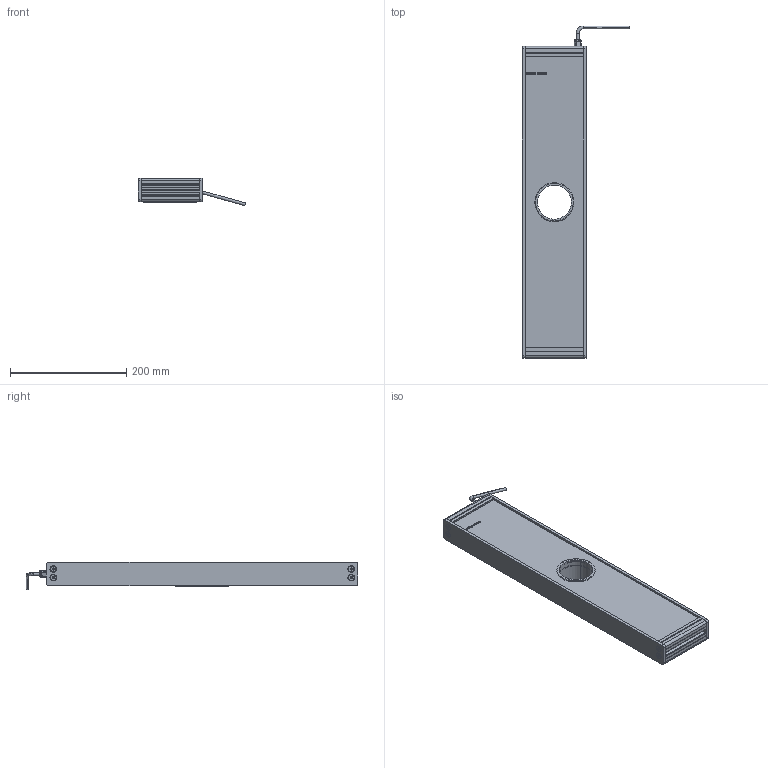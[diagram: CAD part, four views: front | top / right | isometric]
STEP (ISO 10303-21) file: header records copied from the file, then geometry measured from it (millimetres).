
FILE_DESCRIPTION (( 'STEP AP214' ), '1' );
FILE_NAME ('EFFI-FD-100T-500-M12 Ø58.5.STEP', '2021-07-02T11:10:26', ( '' ), ( '' ), 'SwSTEP 2.0', 'SolidWorks 2021', '' );
FILE_SCHEMA (( 'AUTOMOTIVE_DESIGN' ));
Length unit declared in the file: millimetre
Products named in the file (11): 003776; bord fin modif_lg 436.5 mm; Pièce2^EFFI-FD-XXXT-YYY-M12 Ø58.5; profile modif_lg 99.5 mm; cordon_Avec cable; 001037; Assemblage Ø58.5; 001038; EFFI-FD-100T-500-M12 Ø58.5; 000590
Assembly tree (20 placements, depth 3):
  EFFI-FD-100T-500-M12 Ø58.5
    profile modif_lg 99.5 mm
    bord fin modif_lg 436.5 mm  x2
    Pièce2^EFFI-FD-XXXT-YYY-M12 Ø58.5
    profile modif_lg 99.5 mm
    003776  x8
    cordon_Avec cable
    Assemblage Ø58.5
      001037
      001038
      000590  x3
Bounding box: 184.41 x 571.15 x 47.08 mm (x, y, z)
Volume: 1983356 mm3; surface area: 307696.9 mm2
Topology: 18 solids, 24 shells, 997 faces, 2503 edges, 1569 vertices
Faces by surface type: plane 391, cylinder 231, bspline 180, cone 152, torus 35, sphere 8
Entity records: 25439 total; most frequent: CARTESIAN_POINT 8620, ORIENTED_EDGE 3290, DIRECTION 3029, EDGE_CURVE 1649, VERTEX_POINT 1066, AXIS2_PLACEMENT_3D 1021, VECTOR 987, LINE 987
